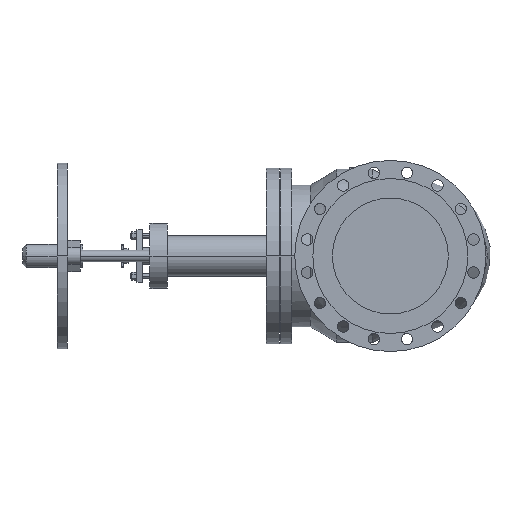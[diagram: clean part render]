
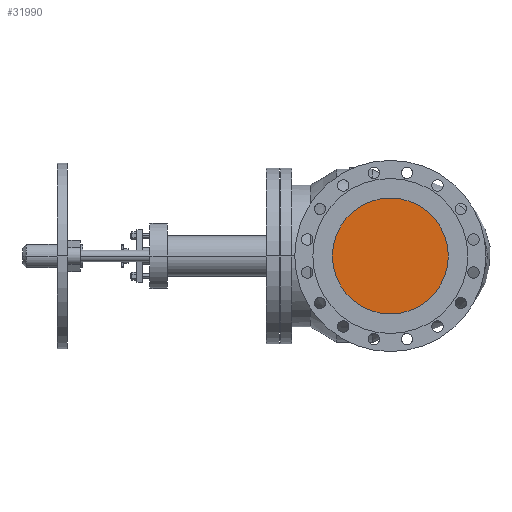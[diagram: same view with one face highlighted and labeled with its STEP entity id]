
A CAD part, left-side view. The second image highlights one B-rep face of the part: STEP entity #31990.
In plain terms, the highlighted planar face has unit normal (-1, 0, 0).
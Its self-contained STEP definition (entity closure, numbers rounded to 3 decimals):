
#20130=CARTESIAN_POINT('',(1.,-200.,0.));
#20140=VERTEX_POINT('',#20130);
#20300=CARTESIAN_POINT('',(1.,200.,0.));
#20310=VERTEX_POINT('',#20300);
#20340=CARTESIAN_POINT('',(1.,0.,0.));
#20350=DIRECTION('',(-1.,0.,0.));
#20360=DIRECTION('',(0.,1.,0.));
#20370=AXIS2_PLACEMENT_3D('',#20340,#20350,#20360);
#20380=CIRCLE('',#20370,200.);
#20390=EDGE_CURVE('',#20310,#20140,#20380,.T.);
#31890=CARTESIAN_POINT('',(1.,100.,0.));
#31900=DIRECTION('',(1.,0.,0.));
#31910=DIRECTION('',(0.,-1.,0.));
#31920=AXIS2_PLACEMENT_3D('',#31890,#31900,#31910);
#31930=PLANE('',#31920);
#31940=EDGE_CURVE('',#20140,#20310,#20380,.T.);
#31950=ORIENTED_EDGE('',*,*,#31940,.T.);
#31960=ORIENTED_EDGE('',*,*,#20390,.T.);
#31970=EDGE_LOOP('',(#31960,#31950));
#31980=FACE_OUTER_BOUND('',#31970,.T.);
#31990=ADVANCED_FACE('',(#31980),#31930,.F.);
